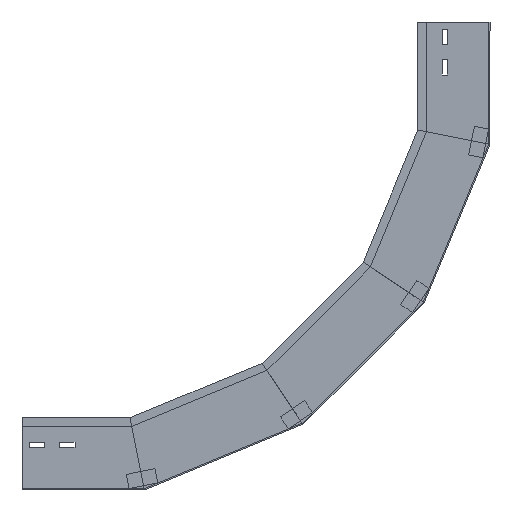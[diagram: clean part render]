
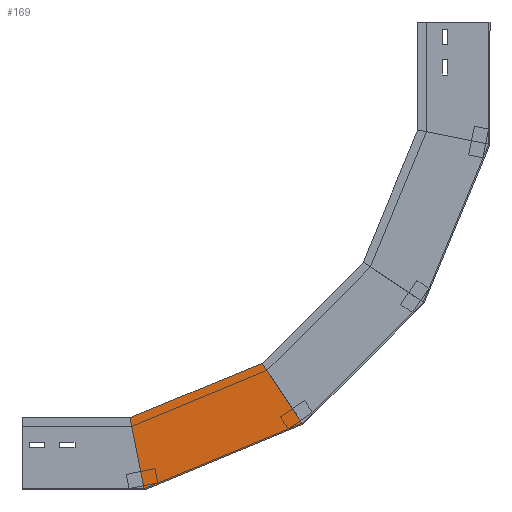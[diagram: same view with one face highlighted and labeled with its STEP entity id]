
A CAD part, left-side view. The second image highlights one B-rep face of the part: STEP entity #169.
In plain terms, the highlighted planar face has unit normal (-1, 0, 0) as drawn and (1, 0, 0) by its records, which use the part's own axes.
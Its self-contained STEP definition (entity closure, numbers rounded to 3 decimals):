
#47 = ORIENTED_EDGE ( 'NONE', *, *, #1506, .T. ) ;
#66 = CARTESIAN_POINT ( 'NONE',  ( 0., 91.117, -389.576 ) ) ;
#142 = VECTOR ( 'NONE', #1794, 1000. ) ;
#168 = EDGE_CURVE ( 'NONE', #1801, #748, #1892, .T. ) ;
#169 = ADVANCED_FACE ( 'NONE', ( #1012 ), #1177, .F. ) ;
#181 = VERTEX_POINT ( 'NONE', #1023 ) ;
#192 = ORIENTED_EDGE ( 'NONE', *, *, #407, .F. ) ;
#309 = ORIENTED_EDGE ( 'NONE', *, *, #1168, .T. ) ;
#381 = AXIS2_PLACEMENT_3D ( 'NONE', #1776, #426, #1045 ) ;
#407 = EDGE_CURVE ( 'NONE', #890, #1801, #1771, .T. ) ;
#426 = DIRECTION ( 'NONE',  ( -1., 0., 0. ) ) ;
#432 = CARTESIAN_POINT ( 'NONE',  ( 0., 175.893, -332.93 ) ) ;
#434 = CARTESIAN_POINT ( 'NONE',  ( 0., 92.388, -131.332 ) ) ;
#530 = VECTOR ( 'NONE', #1635, 1000. ) ;
#590 = DIRECTION ( 'NONE',  ( 0., -0.981, -0.195 ) ) ;
#600 = CARTESIAN_POINT ( 'NONE',  ( 0., 129.74, -363.769 ) ) ;
#748 = VERTEX_POINT ( 'NONE', #66 ) ;
#768 = CARTESIAN_POINT ( 'NONE',  ( 0., 32.452, -163.145 ) ) ;
#890 = VERTEX_POINT ( 'NONE', #1559 ) ;
#904 = LINE ( 'NONE', #1507, #1657 ) ;
#913 = DIRECTION ( 'NONE',  ( 0., 0.383, -0.924 ) ) ;
#987 = VECTOR ( 'NONE', #590, 1000. ) ;
#1012 = FACE_OUTER_BOUND ( 'NONE', #1236, .T. ) ;
#1023 = CARTESIAN_POINT ( 'NONE',  ( 0., 0., -169.6 ) ) ;
#1045 = DIRECTION ( 'NONE',  ( 0., 0., 1. ) ) ;
#1051 = LINE ( 'NONE', #768, #987 ) ;
#1168 = EDGE_CURVE ( 'NONE', #890, #181, #1051, .T. ) ;
#1177 = PLANE ( 'NONE',  #381 ) ;
#1236 = EDGE_LOOP ( 'NONE', ( #192, #309, #47, #1357 ) ) ;
#1357 = ORIENTED_EDGE ( 'NONE', *, *, #168, .F. ) ;
#1506 = EDGE_CURVE ( 'NONE', #181, #748, #904, .T. ) ;
#1507 = CARTESIAN_POINT ( 'NONE',  ( 0., 0., -169.6 ) ) ;
#1559 = CARTESIAN_POINT ( 'NONE',  ( 0., 100., -149.709 ) ) ;
#1635 = DIRECTION ( 'NONE',  ( 0., 0.383, -0.924 ) ) ;
#1657 = VECTOR ( 'NONE', #913, 1000. ) ;
#1771 = LINE ( 'NONE', #434, #530 ) ;
#1776 = CARTESIAN_POINT ( 'NONE',  ( 0., 0., -169.6 ) ) ;
#1794 = DIRECTION ( 'NONE',  ( 0., -0.831, -0.556 ) ) ;
#1801 = VERTEX_POINT ( 'NONE', #432 ) ;
#1892 = LINE ( 'NONE', #600, #142 ) ;
